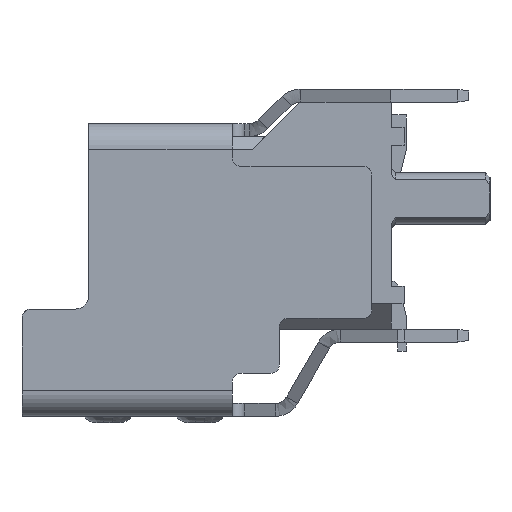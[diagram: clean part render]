
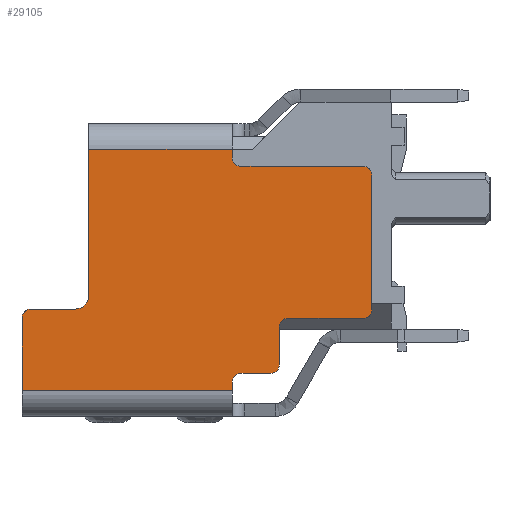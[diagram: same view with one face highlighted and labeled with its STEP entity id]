
A CAD part, left-side view. The second image highlights one B-rep face of the part: STEP entity #29105.
In plain terms, the highlighted planar face has unit normal (-1, 0, 0).
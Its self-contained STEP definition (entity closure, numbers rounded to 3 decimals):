
#6791=DIRECTION('',(0.,0.,-1.));
#6792=VECTOR('',#6791,1.7);
#6793=CARTESIAN_POINT('',(-12.9,8.37,-1.97));
#6794=LINE('',#6793,#6792);
#6982=DIRECTION('',(0.,-1.,0.));
#6983=VECTOR('',#6982,4.9);
#6984=CARTESIAN_POINT('',(-12.9,8.37,-3.67));
#6985=LINE('',#6984,#6983);
#6986=CARTESIAN_POINT('',(-12.9,6.62,1.78));
#6987=DIRECTION('',(1.,0.,0.));
#6988=DIRECTION('',(0.,0.978,-0.207));
#6989=AXIS2_PLACEMENT_3D('',#6986,#6987,#6988);
#6991=DIRECTION('',(0.,0.,-1.));
#6992=VECTOR('',#6991,0.2);
#6993=CARTESIAN_POINT('',(-12.9,3.47,1.95));
#6994=LINE('',#6993,#6992);
#6995=CARTESIAN_POINT('',(-12.9,3.27,1.75));
#6996=DIRECTION('',(-1.,0.,0.));
#6997=DIRECTION('',(0.,1.,0.));
#6998=AXIS2_PLACEMENT_3D('',#6995,#6996,#6997);
#7000=CARTESIAN_POINT('',(-12.9,0.42,1.35));
#7001=DIRECTION('',(1.,0.,0.));
#7002=DIRECTION('',(0.,0.,1.));
#7003=AXIS2_PLACEMENT_3D('',#7000,#7001,#7002);
#7005=DIRECTION('',(0.,0.,-1.));
#7006=VECTOR('',#7005,3.14);
#7007=CARTESIAN_POINT('',(-12.9,0.22,1.35));
#7008=LINE('',#7007,#7006);
#7009=CARTESIAN_POINT('',(-12.9,0.42,-1.79));
#7010=DIRECTION('',(1.,0.,0.));
#7011=DIRECTION('',(0.,-1.,0.));
#7012=AXIS2_PLACEMENT_3D('',#7009,#7010,#7011);
#7014=DIRECTION('',(0.,1.,0.));
#7015=VECTOR('',#7014,1.76);
#7016=CARTESIAN_POINT('',(-12.9,0.42,-1.99));
#7017=LINE('',#7016,#7015);
#7018=CARTESIAN_POINT('',(-12.9,2.18,-2.19));
#7019=DIRECTION('',(-1.,0.,0.));
#7020=DIRECTION('',(0.,0.,1.));
#7021=AXIS2_PLACEMENT_3D('',#7018,#7019,#7020);
#7023=DIRECTION('',(0.,0.,-1.));
#7024=VECTOR('',#7023,0.88);
#7025=CARTESIAN_POINT('',(-12.9,2.38,-2.19));
#7026=LINE('',#7025,#7024);
#7027=CARTESIAN_POINT('',(-12.9,2.58,-3.07));
#7028=DIRECTION('',(1.,0.,0.));
#7029=DIRECTION('',(0.,-1.,0.));
#7030=AXIS2_PLACEMENT_3D('',#7027,#7028,#7029);
#7032=DIRECTION('',(0.,1.,0.));
#7033=VECTOR('',#7032,0.69);
#7034=CARTESIAN_POINT('',(-12.9,2.58,-3.27));
#7035=LINE('',#7034,#7033);
#7036=CARTESIAN_POINT('',(-12.9,3.27,-3.47));
#7037=DIRECTION('',(-1.,0.,0.));
#7038=DIRECTION('',(0.,0.,1.));
#7039=AXIS2_PLACEMENT_3D('',#7036,#7037,#7038);
#7041=DIRECTION('',(0.,0.,-1.));
#7042=VECTOR('',#7041,0.2);
#7043=CARTESIAN_POINT('',(-12.9,3.47,-3.47));
#7044=LINE('',#7043,#7042);
#7045=CARTESIAN_POINT('',(-12.9,8.17,-1.97));
#7046=DIRECTION('',(1.,0.,0.));
#7047=DIRECTION('',(0.,1.,0.));
#7048=AXIS2_PLACEMENT_3D('',#7045,#7046,#7047);
#7050=CARTESIAN_POINT('',(-12.9,7.12,-1.47));
#7051=DIRECTION('',(-1.,0.,0.));
#7052=DIRECTION('',(0.,0.,-1.));
#7053=AXIS2_PLACEMENT_3D('',#7050,#7051,#7052);
#7055=DIRECTION('',(0.,0.,-1.));
#7056=VECTOR('',#7055,3.209);
#7057=CARTESIAN_POINT('',(-12.9,6.82,1.739));
#7058=LINE('',#7057,#7056);
#7140=DIRECTION('',(0.,1.,0.));
#7141=VECTOR('',#7140,0.004);
#7142=CARTESIAN_POINT('',(-12.9,6.816,1.739));
#7143=LINE('',#7142,#7141);
#7174=DIRECTION('',(0.,0.,-1.));
#7175=VECTOR('',#7174,0.17);
#7176=CARTESIAN_POINT('',(-12.9,6.82,1.95));
#7177=LINE('',#7176,#7175);
#7212=DIRECTION('',(0.,1.,0.));
#7213=VECTOR('',#7212,2.85);
#7214=CARTESIAN_POINT('',(-12.9,0.42,1.55));
#7215=LINE('',#7214,#7213);
#7276=DIRECTION('',(0.,1.,0.));
#7277=VECTOR('',#7276,3.35);
#7278=CARTESIAN_POINT('',(-12.9,3.47,1.95));
#7279=LINE('',#7278,#7277);
#7494=DIRECTION('',(0.,1.,0.));
#7495=VECTOR('',#7494,1.05);
#7496=CARTESIAN_POINT('',(-12.9,7.12,-1.77));
#7497=LINE('',#7496,#7495);
#18475=CARTESIAN_POINT('',(-12.9,8.37,-1.97));
#18476=VERTEX_POINT('',#18475);
#18477=CARTESIAN_POINT('',(-12.9,8.37,-3.67));
#18478=VERTEX_POINT('',#18477);
#18767=CARTESIAN_POINT('',(-12.9,3.47,-3.67));
#18768=VERTEX_POINT('',#18767);
#18769=CARTESIAN_POINT('',(-12.9,3.47,-3.47));
#18770=VERTEX_POINT('',#18769);
#18775=CARTESIAN_POINT('',(-12.9,6.82,1.739));
#18776=CARTESIAN_POINT('',(-12.9,6.82,-1.47));
#18777=VERTEX_POINT('',#18775);
#18778=VERTEX_POINT('',#18776);
#18779=CARTESIAN_POINT('',(-12.9,6.816,1.739));
#18780=VERTEX_POINT('',#18779);
#18781=CARTESIAN_POINT('',(-12.9,6.82,1.78));
#18782=VERTEX_POINT('',#18781);
#18783=CARTESIAN_POINT('',(-12.9,6.82,1.95));
#18784=VERTEX_POINT('',#18783);
#18785=CARTESIAN_POINT('',(-12.9,3.47,1.95));
#18786=VERTEX_POINT('',#18785);
#18787=CARTESIAN_POINT('',(-12.9,3.47,1.75));
#18788=VERTEX_POINT('',#18787);
#18789=CARTESIAN_POINT('',(-12.9,3.27,1.55));
#18790=VERTEX_POINT('',#18789);
#18791=CARTESIAN_POINT('',(-12.9,0.42,1.55));
#18792=VERTEX_POINT('',#18791);
#18793=CARTESIAN_POINT('',(-12.9,0.22,1.35));
#18794=VERTEX_POINT('',#18793);
#18795=CARTESIAN_POINT('',(-12.9,0.22,-1.79));
#18796=VERTEX_POINT('',#18795);
#18797=CARTESIAN_POINT('',(-12.9,0.42,-1.99));
#18798=VERTEX_POINT('',#18797);
#18799=CARTESIAN_POINT('',(-12.9,2.18,-1.99));
#18800=VERTEX_POINT('',#18799);
#18801=CARTESIAN_POINT('',(-12.9,2.38,-2.19));
#18802=VERTEX_POINT('',#18801);
#18803=CARTESIAN_POINT('',(-12.9,2.38,-3.07));
#18804=VERTEX_POINT('',#18803);
#18805=CARTESIAN_POINT('',(-12.9,2.58,-3.27));
#18806=VERTEX_POINT('',#18805);
#18807=CARTESIAN_POINT('',(-12.9,3.27,-3.27));
#18808=VERTEX_POINT('',#18807);
#18809=CARTESIAN_POINT('',(-12.9,8.17,-1.77));
#18810=VERTEX_POINT('',#18809);
#18811=CARTESIAN_POINT('',(-12.9,7.12,-1.77));
#18812=VERTEX_POINT('',#18811);
#29055=CARTESIAN_POINT('',(-12.9,4.295,-0.86));
#29056=DIRECTION('',(1.,0.,0.));
#29057=DIRECTION('',(0.,0.,-1.));
#29058=AXIS2_PLACEMENT_3D('',#29055,#29056,#29057);
#29059=PLANE('',#29058);
#29061=ORIENTED_EDGE('',*,*,#29060,.F.);
#29063=ORIENTED_EDGE('',*,*,#29062,.F.);
#29065=ORIENTED_EDGE('',*,*,#29064,.T.);
#29067=ORIENTED_EDGE('',*,*,#29066,.F.);
#29069=ORIENTED_EDGE('',*,*,#29068,.F.);
#29071=ORIENTED_EDGE('',*,*,#29070,.T.);
#29073=ORIENTED_EDGE('',*,*,#29072,.T.);
#29075=ORIENTED_EDGE('',*,*,#29074,.F.);
#29077=ORIENTED_EDGE('',*,*,#29076,.T.);
#29079=ORIENTED_EDGE('',*,*,#29078,.T.);
#29081=ORIENTED_EDGE('',*,*,#29080,.T.);
#29083=ORIENTED_EDGE('',*,*,#29082,.T.);
#29085=ORIENTED_EDGE('',*,*,#29084,.T.);
#29087=ORIENTED_EDGE('',*,*,#29086,.T.);
#29089=ORIENTED_EDGE('',*,*,#29088,.T.);
#29091=ORIENTED_EDGE('',*,*,#29090,.T.);
#29093=ORIENTED_EDGE('',*,*,#29092,.T.);
#29094=ORIENTED_EDGE('',*,*,#29028,.T.);
#29095=ORIENTED_EDGE('',*,*,#29049,.F.);
#29096=ORIENTED_EDGE('',*,*,#28789,.F.);
#29098=ORIENTED_EDGE('',*,*,#29097,.T.);
#29100=ORIENTED_EDGE('',*,*,#29099,.F.);
#29102=ORIENTED_EDGE('',*,*,#29101,.T.);
#29103=EDGE_LOOP('',(#29061,#29063,#29065,#29067,#29069,#29071,#29073,#29075,
#29077,#29079,#29081,#29083,#29085,#29087,#29089,#29091,#29093,#29094,#29095,
#29096,#29098,#29100,#29102));
#29104=FACE_OUTER_BOUND('',#29103,.F.);
#6990=CIRCLE('',#6989,0.2);
#6999=CIRCLE('',#6998,0.2);
#7004=CIRCLE('',#7003,0.2);
#7013=CIRCLE('',#7012,0.2);
#7022=CIRCLE('',#7021,0.2);
#7031=CIRCLE('',#7030,0.2);
#7040=CIRCLE('',#7039,0.2);
#7049=CIRCLE('',#7048,0.2);
#7054=CIRCLE('',#7053,0.3);
#28789=EDGE_CURVE('',#18476,#18478,#6794,.T.);
#29028=EDGE_CURVE('',#18770,#18768,#7044,.T.);
#29049=EDGE_CURVE('',#18478,#18768,#6985,.T.);
#29060=EDGE_CURVE('',#18777,#18778,#7058,.T.);
#29062=EDGE_CURVE('',#18780,#18777,#7143,.T.);
#29064=EDGE_CURVE('',#18780,#18782,#6990,.T.);
#29066=EDGE_CURVE('',#18784,#18782,#7177,.T.);
#29068=EDGE_CURVE('',#18786,#18784,#7279,.T.);
#29070=EDGE_CURVE('',#18786,#18788,#6994,.T.);
#29072=EDGE_CURVE('',#18788,#18790,#6999,.T.);
#29074=EDGE_CURVE('',#18792,#18790,#7215,.T.);
#29076=EDGE_CURVE('',#18792,#18794,#7004,.T.);
#29078=EDGE_CURVE('',#18794,#18796,#7008,.T.);
#29080=EDGE_CURVE('',#18796,#18798,#7013,.T.);
#29082=EDGE_CURVE('',#18798,#18800,#7017,.T.);
#29084=EDGE_CURVE('',#18800,#18802,#7022,.T.);
#29086=EDGE_CURVE('',#18802,#18804,#7026,.T.);
#29088=EDGE_CURVE('',#18804,#18806,#7031,.T.);
#29090=EDGE_CURVE('',#18806,#18808,#7035,.T.);
#29092=EDGE_CURVE('',#18808,#18770,#7040,.T.);
#29097=EDGE_CURVE('',#18476,#18810,#7049,.T.);
#29099=EDGE_CURVE('',#18812,#18810,#7497,.T.);
#29101=EDGE_CURVE('',#18812,#18778,#7054,.T.);
#29105=ADVANCED_FACE('',(#29104),#29059,.F.);
